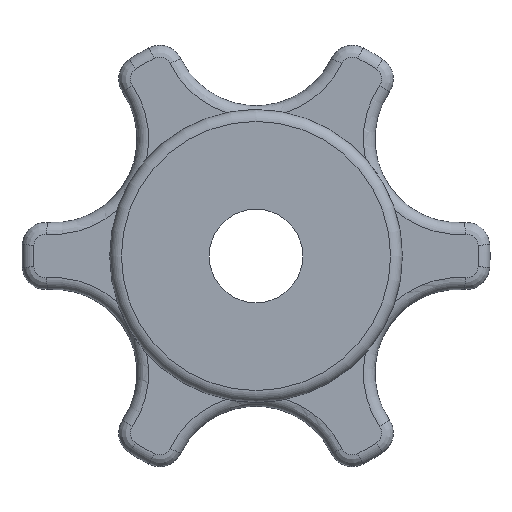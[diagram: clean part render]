
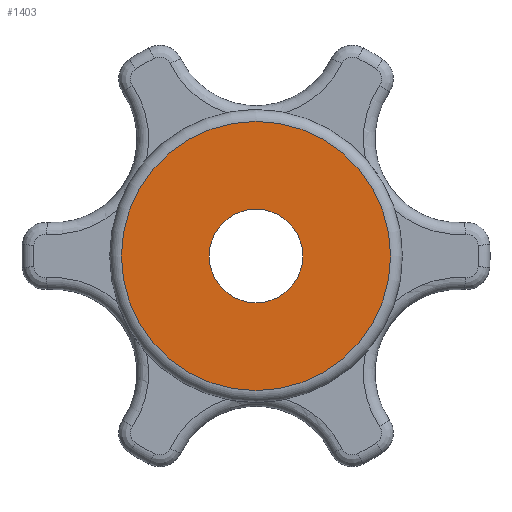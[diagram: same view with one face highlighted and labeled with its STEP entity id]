
A CAD part, front view. The second image highlights one B-rep face of the part: STEP entity #1403.
In plain terms, the highlighted planar face has unit normal (0, -1, 0).
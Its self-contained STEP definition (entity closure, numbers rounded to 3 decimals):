
#71=FACE_BOUND('',#361,.T.);
#97=CIRCLE('',#1542,11.5);
#108=CIRCLE('',#1555,4.);
#240=PLANE('',#1554);
#263=FACE_OUTER_BOUND('',#360,.T.);
#360=EDGE_LOOP('',(#997));
#361=EDGE_LOOP('',(#998));
#592=VERTEX_POINT('',#2377);
#608=VERTEX_POINT('',#2489);
#733=EDGE_CURVE('',#592,#592,#97,.T.);
#751=EDGE_CURVE('',#608,#608,#108,.T.);
#997=ORIENTED_EDGE('',*,*,#733,.F.);
#998=ORIENTED_EDGE('',*,*,#751,.T.);
#1403=ADVANCED_FACE('',(#263,#71),#240,.T.);
#1542=AXIS2_PLACEMENT_3D('',#2378,#1845,#1846);
#1554=AXIS2_PLACEMENT_3D('',#2488,#1870,#1871);
#1555=AXIS2_PLACEMENT_3D('',#2490,#1872,#1873);
#1845=DIRECTION('center_axis',(0.,1.,0.));
#1846=DIRECTION('ref_axis',(1.,0.,0.));
#1870=DIRECTION('center_axis',(0.,-1.,0.));
#1871=DIRECTION('ref_axis',(-1.,0.,0.));
#1872=DIRECTION('center_axis',(0.,1.,0.));
#1873=DIRECTION('ref_axis',(0.,0.,
1.));
#2377=CARTESIAN_POINT('',(20.,70.,39.5));
#2378=CARTESIAN_POINT('Origin',(20.,70.,28.));
#2488=CARTESIAN_POINT('Origin',(20.,70.,28.));
#2489=CARTESIAN_POINT('',(20.,70.,24.));
#2490=CARTESIAN_POINT('Origin',(20.,70.,28.));
